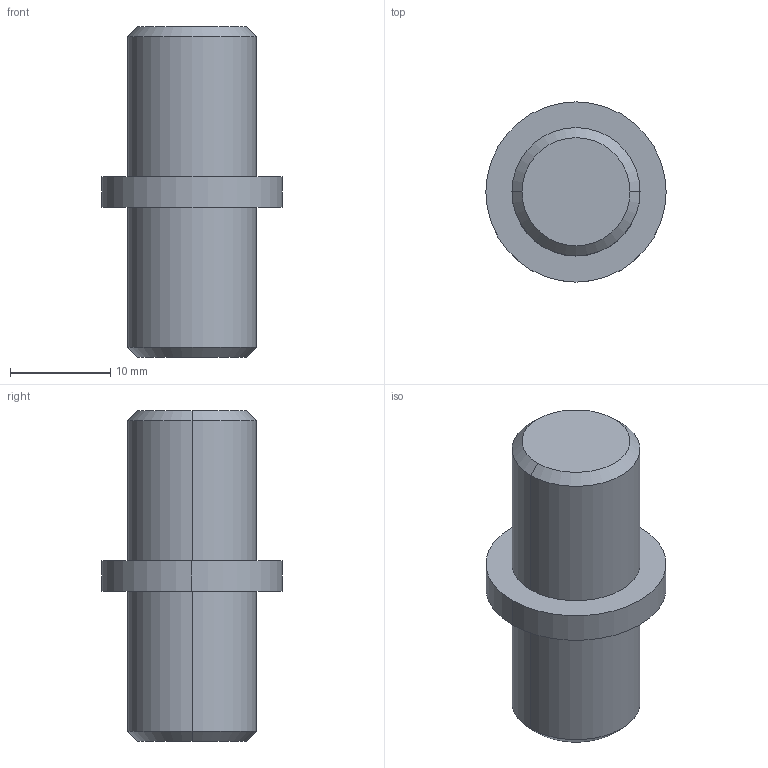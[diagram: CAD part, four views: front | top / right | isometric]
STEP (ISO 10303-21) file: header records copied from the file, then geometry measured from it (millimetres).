
FILE_DESCRIPTION (( 'STEP AP214' ), '1' );
FILE_NAME ('FGGR 18.step', '2017-04-05T07:37:22', ( '' ), ( '' ), 'SwSTEP 2.0', 'SolidWorks 2015', '' );
FILE_SCHEMA (( 'AUTOMOTIVE_DESIGN' ));
Length unit declared in the file: millimetre
Products named in the file (1): FGGR 18
Bounding box: 18 x 18 x 33 mm (x, y, z)
Volume: 4585.7 mm3; surface area: 1835.2 mm2
Topology: 1 solids, 1 shells, 14 faces, 26 edges, 16 vertices
Faces by surface type: cylinder 6, cone 4, plane 4
Entity records: 388 total; most frequent: DIRECTION 72, CARTESIAN_POINT 57, ORIENTED_EDGE 52, AXIS2_PLACEMENT_3D 31, EDGE_CURVE 26, CIRCLE 16, EDGE_LOOP 16, VERTEX_POINT 16
